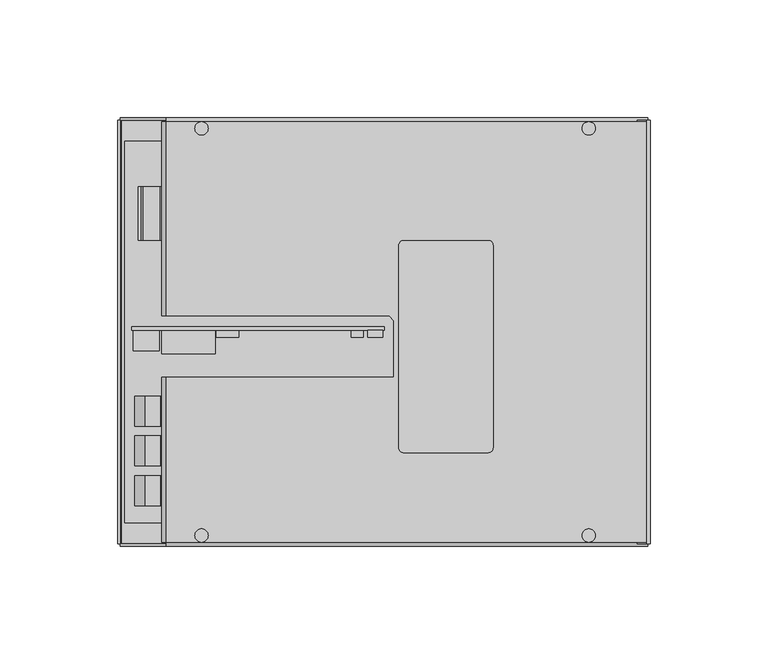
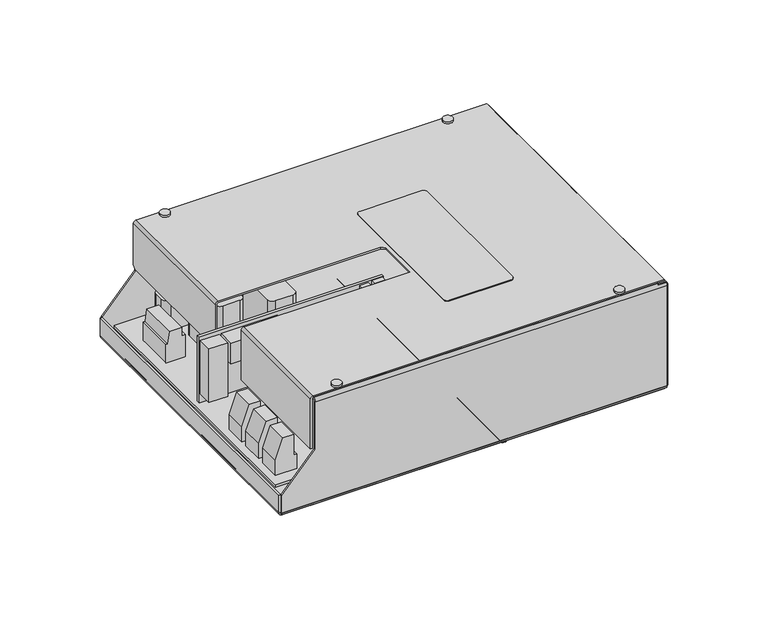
"""IFC4 building model written with IfcOpenShell, lengths in millimetres: proxy geometry, FITIN 12V 24A CG3 : FITIN 12V 24A CG3."""

from ifc_helpers import new_model, si_unit, point, frame, frame_2d, origin, place, context, project, spatial, polyline, circle_curve, trimmed, segment, composite_curve, outline, extrude, source, transform, mapped, element, save
from ifc_brep_helpers import plane_surface, cylinder_surface, revolved_surface, advanced_brep


def electrical_equipment_b5e7c551(model_context):
    return source(origin(), model_context, "Body", "SolidModel", [
        extrude(outline(composite_curve([segment(trimmed(circle_curve(frame_2d((-98.4543929, 76.9323952)), 3.2024027), [point((-101.6567956, 76.9323952))], [point((-95.2519902, 76.9323952))], False, "CARTESIAN"), True, "CONTINUOUS"), segment(trimmed(circle_curve(frame_2d((-98.4543929, 76.9323952)), 3.2024027), [point((-95.2519902, 76.9323952))], [point((-101.6567956, 76.9323952))], False, "CARTESIAN"), True, "CONTINUOUS")], self_intersect=False)), frame((0.0, 0.0, -2.9999999), z_axis=(0.0, 0.0, 1.0), x_axis=(1.0, 0.0, 0.0)), (0.0, 0.0, 1.0), 3.0),
        extrude(outline(composite_curve([segment(trimmed(circle_curve(frame_2d((-98.4543929, -76.9323952)), 3.2024027), [point((-101.6567956, -76.9323952))], [point((-95.2519902, -76.9323952))], False, "CARTESIAN"), True, "CONTINUOUS"), segment(trimmed(circle_curve(frame_2d((-98.4543929, -76.9323952)), 3.2024027), [point((-95.2519902, -76.9323952))], [point((-101.6567956, -76.9323952))], False, "CARTESIAN"), True, "CONTINUOUS")], self_intersect=False)), frame((0.0, 0.0, -2.9999999), z_axis=(0.0, 0.0, 1.0), x_axis=(1.0, 0.0, 0.0)), (0.0, 0.0, 1.0), 3.0),
        extrude(outline(composite_curve([segment(trimmed(circle_curve(frame_2d((98.6106429, 76.9323952)), 3.2024027), [point((101.8130456, 76.9323952))], [point((95.4082402, 76.9323952))], False, "CARTESIAN"), True, "CONTINUOUS"), segment(trimmed(circle_curve(frame_2d((98.6106429, 76.9323952)), 3.2024027), [point((95.4082402, 76.9323952))], [point((101.8130456, 76.9323952))], False, "CARTESIAN"), True, "CONTINUOUS")], self_intersect=False)), frame((0.0, 0.0, -2.9999999), z_axis=(0.0, 0.0, 1.0), x_axis=(1.0, 0.0, 0.0)), (0.0, 0.0, 1.0), 3.0),
        extrude(outline(composite_curve([segment(trimmed(circle_curve(frame_2d((98.6106429, -76.9323952)), 3.2024027), [point((101.8130456, -76.9323952))], [point((95.4082402, -76.9323952))], False, "CARTESIAN"), True, "CONTINUOUS"), segment(trimmed(circle_curve(frame_2d((98.6106429, -76.9323952)), 3.2024027), [point((95.4082402, -76.9323952))], [point((101.8130456, -76.9323952))], False, "CARTESIAN"), True, "CONTINUOUS")], self_intersect=False)), frame((0.0, 0.0, -2.9999999), z_axis=(0.0, 0.0, 1.0), x_axis=(1.0, 0.0, 0.0)), (0.0, 0.0, 1.0), 3.0),
        extrude(outline(composite_curve([segment(trimmed(circle_curve(frame_2d((0.0, 72.2401178)), 4.1224355), [point((-4.1224355, 72.2401178))], [point((4.1224355, 72.2401178))], False, "CARTESIAN"), True, "CONTINUOUS"), segment(trimmed(circle_curve(frame_2d((0.0, 72.2401178)), 4.1224355), [point((4.1224355, 72.2401178))], [point((-4.1224355, 72.2401178))], False, "CARTESIAN"), True, "CONTINUOUS")], self_intersect=False)), frame((0.0, 0.0, -5.3849342), z_axis=(0.0, 0.0, 1.0), x_axis=(1.0, 0.0, 0.0)), (0.0, 0.0, 1.0), 1.8849342),
        extrude(outline(composite_curve([segment(trimmed(circle_curve(frame_2d((0.0, -72.1219662)), 4.0439409), [point((-4.0439409, -72.1219662))], [point((4.0439409, -72.1219662))], False, "CARTESIAN"), True, "CONTINUOUS"), segment(trimmed(circle_curve(frame_2d((0.0, -72.1219662)), 4.0439409), [point((4.0439409, -72.1219662))], [point((-4.0439409, -72.1219662))], False, "CARTESIAN"), True, "CONTINUOUS")], self_intersect=False)), frame((0.0, 0.0, -5.3849342), z_axis=(0.0, 0.0, 1.0), x_axis=(1.0, 0.0, 0.0)), (0.0, 0.0, 1.0), 1.8849342),
        extrude(outline(composite_curve([segment(polyline([(-3.5, 18.9413185), (-8.5, 22.51), (-8.5, 24.3521216)]), True, "CONTINUOUS"), segment(trimmed(circle_curve(frame_2d((-7.8421216, 24.3521216)), 0.6578784), [point((-8.5, 24.3521216))], [point((-7.8421216, 25.01))], False, "CARTESIAN"), True, "CONTINUOUS"), segment(polyline([(-7.8421216, 25.01), (-0.6253343, 25.01)]), True, "CONTINUOUS"), segment(trimmed(circle_curve(frame_2d((-0.6253343, 24.3846657)), 0.6253343), [point((-0.6253343, 25.01))], [point((0.0, 24.3846657))], False, "CARTESIAN"), True, "CONTINUOUS"), segment(polyline([(0.0, 24.3846657), (0.0, -24.49)]), True, "CONTINUOUS"), segment(trimmed(circle_curve(frame_2d((-0.5, -24.49)), 0.5), [point((0.0, -24.49))], [point((-0.5, -24.99))], False, "CARTESIAN"), True, "CONTINUOUS"), segment(polyline([(-0.5, -24.99), (-5.6765266, -24.99), (-7.1537895, -22.3789285)]), True, "CONTINUOUS"), segment(trimmed(circle_curve(frame_2d((-6.0048715, -22.3435789)), 1.1494617), [point((-7.1537895, -22.3789285))], [point((-6.0792807, -21.1965281))], False, "CARTESIAN"), True, "CONTINUOUS"), segment(polyline([(-6.0792807, -21.1965281), (-7.9333399, -12.6353371)]), True, "CONTINUOUS"), segment(trimmed(circle_curve(frame_2d((-7.4927941, -13.0515209)), 0.6060441), [point((-7.9333399, -12.6353371))], [point((-6.9004808, -12.9232462))], False, "CARTESIAN"), True, "CONTINUOUS"), segment(polyline([(-6.9004808, -12.9232462), (-4.9144214, -22.0939531)]), True, "CONTINUOUS"), segment(trimmed(circle_curve(frame_2d((-4.2043722, -21.9401809)), 0.7265093), [point((-4.9144214, -22.0939531))], [point((-3.5, -22.1181573))], True, "CARTESIAN"), True, "CONTINUOUS"), segment(polyline([(-3.5, -22.1181573), (-3.5, 18.9413185)]), True, "CONTINUOUS")], self_intersect=False)), frame((0.0, -80.1229466, 0.0), z_axis=(0.0, 1.0, 0.0), x_axis=(0.0, 0.0, 1.0)), (0.0, 0.0, 1.0), 160.1595466),
        extrude(outline(composite_curve([segment(trimmed(circle_curve(frame_2d((-78.9637, 53.8129)), 3.0), [point((-81.9637, 53.8129))], [point((-78.9637, 56.8129))], False, "CARTESIAN"), True, "CONTINUOUS"), segment(polyline([(-78.9637, 56.8129), (-68.9637, 56.8129)]), True, "CONTINUOUS"), segment(trimmed(circle_curve(frame_2d((-68.9637, 53.8129)), 3.0), [point((-68.9637, 56.8129))], [point((-65.9637, 53.8129))], False, "CARTESIAN"), True, "CONTINUOUS"), segment(polyline([(-65.9637, 53.8129), (-65.9637, 28.8129)]), True, "CONTINUOUS"), segment(trimmed(circle_curve(frame_2d((-68.9637, 28.8129)), 3.0), [point((-65.9637, 28.8129))], [point((-68.9637, 25.8129))], False, "CARTESIAN"), True, "CONTINUOUS"), segment(polyline([(-68.9637, 25.8129), (-78.9637, 25.8129)]), True, "CONTINUOUS"), segment(trimmed(circle_curve(frame_2d((-78.9637, 28.8129)), 3.0), [point((-78.9637, 25.8129))], [point((-81.9637, 28.8129))], False, "CARTESIAN"), True, "CONTINUOUS"), segment(polyline([(-81.9637, 28.8129), (-81.9637, 53.8129)]), True, "CONTINUOUS")], self_intersect=False)), frame((0.0, 0.0, 12.6000001), z_axis=(0.0, 0.0, 1.0), x_axis=(1.0, 0.0, 0.0)), (0.0, 0.0, 1.0), 34.5),
        extrude(outline(composite_curve([segment(trimmed(circle_curve(frame_2d((-43.5990807, 19.4592307)), 3.0), [point((-40.5990807, 19.4592307))], [point((-43.5990807, 16.4592307))], False, "CARTESIAN"), True, "CONTINUOUS"), segment(polyline([(-43.5990807, 16.4592307), (-53.5990807, 16.4592307)]), True, "CONTINUOUS"), segment(trimmed(circle_curve(frame_2d((-53.5990807, 19.4592307)), 3.0), [point((-53.5990807, 16.4592307))], [point((-56.5990807, 19.4592307))], False, "CARTESIAN"), True, "CONTINUOUS"), segment(polyline([(-56.5990807, 19.4592307), (-56.5990807, 44.4592307)]), True, "CONTINUOUS"), segment(trimmed(circle_curve(frame_2d((-53.5990807, 44.4592307)), 3.0), [point((-56.5990807, 44.4592307))], [point((-53.5990807, 47.4592307))], False, "CARTESIAN"), True, "CONTINUOUS"), segment(polyline([(-53.5990807, 47.4592307), (-43.5990807, 47.4592307)]), True, "CONTINUOUS"), segment(trimmed(circle_curve(frame_2d((-43.5990807, 44.4592307)), 3.0), [point((-43.5990807, 47.4592307))], [point((-40.5990807, 44.4592307))], False, "CARTESIAN"), True, "CONTINUOUS"), segment(polyline([(-40.5990807, 44.4592307), (-40.5990807, 19.4592307)]), True, "CONTINUOUS")], self_intersect=False)), frame((0.0, 0.0, 12.6000001), z_axis=(0.0, 0.0, 1.0), x_axis=(1.0, 0.0, 0.0)), (0.0, 0.0, 1.0), 34.5),
        extrude(outline(polyline([(-61.6494, -2.29), (-71.1494, -2.29), (-71.1494, 0.71), (-61.6494, 0.71), (-61.6494, -2.29)])), frame((0.0, 0.0, 45.6860001), z_axis=(0.0, 0.0, 1.0), x_axis=(1.0, 0.0, 0.0)), (0.0, 0.0, 1.0), 5.0),
        extrude(outline(polyline([(-8.7244, -2.29), (-13.8044, -2.29), (-13.8044, 0.71), (-8.7244, 0.71), (-8.7244, -2.29)])), frame((0.0, 0.0, 45.6200001), z_axis=(0.0, 0.0, 1.0), x_axis=(1.0, 0.0, 0.0)), (0.0, 0.0, 1.0), 6.35),
        extrude(outline(polyline([(-0.4694, -2.29), (-6.8194, -2.29), (-6.8194, 0.71), (-0.4694, 0.71), (-0.4694, -2.29)])), frame((0.0, 0.0, 42.4450001), z_axis=(0.0, 0.0, 1.0), x_axis=(1.0, 0.0, 0.0)), (0.0, 0.0, 1.0), 10.16),
        extrude(outline(polyline([(-71.6148, -9.29), (-94.3478, -9.29), (-94.3478, 0.71), (-71.6148, 0.71), (-71.6148, -9.29)])), frame((0.0, 0.0, 38.1524001), z_axis=(0.0, 0.0, 1.0), x_axis=(1.0, 0.0, 0.0)), (0.0, 0.0, 1.0), 12.4968),
        extrude(outline(polyline([(-95.4908, -7.89), (-106.489, -7.89), (-106.489, 0.71), (-95.4908, 0.71), (-95.4908, -7.89)])), frame((0.0, 0.0, 17.6546001), z_axis=(0.0, 0.0, 1.0), x_axis=(1.0, 0.0, 0.0)), (0.0, 0.0, 1.0), 32.9946),
        extrude(outline(polyline([(-107.1494, 0.71), (-107.1494, 2.31), (0.0132, 2.31), (0.0132, 0.71), (-107.1494, 0.71)])), frame((0.0, 0.0, 12.6000001), z_axis=(0.0, 0.0, 1.0), x_axis=(1.0, 0.0, 0.0)), (0.0, 0.0, 1.0), 40.386),
        extrude(outline(polyline([(12.6000001, -105.7264), (12.6000001, -93.2296), (21.5126464, -93.2296), (21.5126464, -94.9381951), (34.1000001, -94.9381951), (34.1000001, -101.3394304), (21.8983651, -105.7264), (12.6000001, -105.7264)])), frame((0.0, -39.929, 0.0), z_axis=(0.0, 1.0, 0.0), x_axis=(0.0, 0.0, 1.0)), (0.0, 0.0, 1.0), 12.7),
        extrude(outline(polyline([(12.6000001, -105.7264), (12.6000001, -93.2296), (21.5126464, -93.2296), (21.5126464, -94.9381951), (34.1000001, -94.9381951), (34.1000001, -101.3394304), (21.8983651, -105.7264), (12.6000001, -105.7264)])), frame((0.0, -56.82, 0.0), z_axis=(0.0, 1.0, 0.0), x_axis=(0.0, 0.0, 1.0)), (0.0, 0.0, 1.0), 12.7),
        extrude(outline(polyline([(12.6000001, -105.7264), (12.6000001, -93.2296), (21.5126464, -93.2296), (21.5126464, -94.9381951), (34.1000001, -94.9381951), (34.1000001, -101.3394304), (21.8983651, -105.7264), (12.6000001, -105.7264)])), frame((0.0, -73.761395, 0.0), z_axis=(0.0, 1.0, 0.0), x_axis=(0.0, 0.0, 1.0)), (0.0, 0.0, 1.0), 12.7),
        extrude(outline(composite_curve([segment(trimmed(circle_curve(frame_2d((-87.8194, 71.196)), 3.5052), [point((-91.3246, 71.196))], [point((-87.8194, 74.7012))], False, "CARTESIAN"), True, "CONTINUOUS"), segment(polyline([(-87.8194, 74.7012), (-58.4824, 74.7012), (-58.4824, 62.8902), (-87.6669336, 62.9663336)]), True, "CONTINUOUS"), segment(trimmed(circle_curve(frame_2d((-87.6669336, 66.624)), 3.6576664), [point((-87.6669336, 62.9663336))], [point((-91.3246, 66.624))], False, "CARTESIAN"), True, "CONTINUOUS"), segment(polyline([(-91.3246, 66.624), (-91.3246, 71.196)]), True, "CONTINUOUS")], self_intersect=False)), frame((0.0, 0.0, 12.6000001), z_axis=(0.0, 0.0, 1.0), x_axis=(1.0, 0.0, 0.0)), (0.0, 0.0, 1.0), 18.5),
        extrude(outline(polyline([(-110.0444, 80.9496), (110.0466, 80.9496), (110.0466, -80.95), (-110.0444, -80.95), (-110.0444, 80.9496)])), frame((0.0, 0.0, 11.0000001), z_axis=(0.0, 0.0, 1.0), x_axis=(1.0, 0.0, 0.0)), (0.0, 0.0, 1.0), 1.6),
        extrude(outline(polyline([(12.6000001, -104.3294), (12.6000001, -93.2296), (26.4690736, -93.2296), (26.4690736, -95.2615965), (31.6000001, -95.2615965), (31.6000001, -102.20839), (24.2346609, -103.1751412), (24.2346609, -104.3294), (12.6000001, -104.3294)])), frame((0.0, 38.8618, 0.0), z_axis=(0.0, 1.0, 0.0), x_axis=(0.0, 0.0, 1.0)), (0.0, 0.0, 1.0), 22.86),
        extrude(outline(polyline([(95.1066, 80.9496), (95.1066, -79.0504), (30.1066, -79.0504), (30.1066, 25.9496), (-55.8934, 25.9496), (-55.8934, 80.9496), (95.1066, 80.9496)])), frame((0.0, 0.0, 57.6000001), z_axis=(0.0, 0.0, 1.0), x_axis=(1.0, 0.0, 0.0)), (0.0, 0.0, 1.0), 1.0),
        extrude(outline(composite_curve([segment(polyline([(65.3366001, 107.5465999), (64.3366002, 107.5465999), (64.3366002, 111.3099999)]), True, "CONTINUOUS"), segment(trimmed(circle_curve(frame_2d((63.6000002, 111.3099999)), 0.7366), [point((64.3366002, 111.3099999))], [point((63.6000002, 112.0465999))], True, "CARTESIAN"), True, "CONTINUOUS"), segment(polyline([(63.6000002, 112.0465999), (1.7366001, 112.0465999)]), True, "CONTINUOUS"), segment(trimmed(circle_curve(frame_2d((1.7366001, 111.3099998)), 0.7366001), [point((1.7366001, 112.0465999))], [point((1.0, 111.3099998))], True, "CARTESIAN"), True, "CONTINUOUS"), segment(polyline([(1.0, 111.3099998), (1.0, -111.31)]), True, "CONTINUOUS"), segment(trimmed(circle_curve(frame_2d((1.7366001, -111.31)), 0.7366001), [point((1.0, -111.31))], [point((1.7366001, -112.0466001))], True, "CARTESIAN"), True, "CONTINUOUS"), segment(polyline([(1.7366001, -112.0466001), (12.5999999, -112.0466001), (12.5999999, -113.0466), (1.7366001, -113.0466)]), True, "CONTINUOUS"), segment(trimmed(circle_curve(frame_2d((1.7366001, -111.31)), 1.7366), [point((1.7366001, -113.0466))], [point((1e-07, -111.31))], False, "CARTESIAN"), True, "CONTINUOUS"), segment(polyline([(1e-07, -111.31), (1e-07, 111.3099998)]), True, "CONTINUOUS"), segment(trimmed(circle_curve(frame_2d((1.7366001, 111.3099998)), 1.7366), [point((1e-07, 111.3099998))], [point((1.7366001, 113.0465997))], False, "CARTESIAN"), True, "CONTINUOUS"), segment(polyline([(1.7366001, 113.0465997), (63.6000002, 113.0465997)]), True, "CONTINUOUS"), segment(trimmed(circle_curve(frame_2d((63.6000002, 111.3099999)), 1.7365999), [point((63.6000002, 113.0465997))], [point((65.3366001, 111.3099999))], False, "CARTESIAN"), True, "CONTINUOUS"), segment(polyline([(65.3366001, 111.3099999), (65.3366001, 107.5465999)]), True, "CONTINUOUS")], self_intersect=False)), frame((0.0, -89.8792893, 0.0), z_axis=(0.0, 1.0, 0.0), x_axis=(0.0, 0.0, 1.0)), (0.0, 0.0, 1.0), 179.7585786),
        extrude(outline(composite_curve([segment(polyline([(8.3072684, 38.7834), (44.3712674, 38.7834)]), True, "CONTINUOUS"), segment(trimmed(circle_curve(frame_2d((44.3712674, 36.8446675)), 1.9387325), [point((44.3712674, 38.7834))], [point((46.3099999, 36.8446675))], False, "CARTESIAN"), True, "CONTINUOUS"), segment(polyline([(46.3099999, 36.8446675), (46.3099999, -49.2387016)]), True, "CONTINUOUS"), segment(trimmed(circle_curve(frame_2d((44.3321015, -49.2387016)), 1.9778984), [point((46.3099999, -49.2387016))], [point((44.3321015, -51.2166))], False, "CARTESIAN"), True, "CONTINUOUS"), segment(polyline([(44.3321015, -51.2166), (8.2379927, -51.2166)]), True, "CONTINUOUS"), segment(trimmed(circle_curve(frame_2d((8.2379927, -49.2886071)), 1.9279929), [point((8.2379927, -51.2166))], [point((6.3099999, -49.2886071))], False, "CARTESIAN"), True, "CONTINUOUS"), segment(polyline([(6.3099999, -49.2886071), (6.3099999, 36.7861315)]), True, "CONTINUOUS"), segment(trimmed(circle_curve(frame_2d((8.3072684, 36.7861315)), 1.9972685), [point((6.3099999, 36.7861315))], [point((8.3072684, 38.7834))], False, "CARTESIAN"), True, "CONTINUOUS")], self_intersect=False)), frame((0.0, 0.0, 66.3366001), z_axis=(0.0, 0.0, 1.0), x_axis=(1.0, 0.0, 0.0)), (0.0, 0.0, 1.0), 0.5),
        extrude(outline(composite_curve([segment(trimmed(circle_curve(frame_2d((-77.4918605, 86.4355941)), 2.810918), [point((-80.3027784, 86.4355941))], [point((-74.6809425, 86.4355941))], False, "CARTESIAN"), True, "CONTINUOUS"), segment(trimmed(circle_curve(frame_2d((-77.4918605, 86.4355941)), 2.810918), [point((-74.6809425, 86.4355941))], [point((-80.3027784, 86.4355941))], False, "CARTESIAN"), True, "CONTINUOUS")], self_intersect=False)), frame((0.0, 0.0, 66.3366001), z_axis=(0.0, 0.0, 1.0), x_axis=(1.0, 0.0, 0.0)), (0.0, 0.0, 1.0), 1.2),
        extrude(outline(composite_curve([segment(trimmed(circle_curve(frame_2d((-77.4918605, -86.4355941)), 2.810918), [point((-80.3027784, -86.4355941))], [point((-74.6809425, -86.4355941))], False, "CARTESIAN"), True, "CONTINUOUS"), segment(trimmed(circle_curve(frame_2d((-77.4918605, -86.4355941)), 2.810918), [point((-74.6809425, -86.4355941))], [point((-80.3027784, -86.4355941))], False, "CARTESIAN"), True, "CONTINUOUS")], self_intersect=False)), frame((0.0, 0.0, 66.3366001), z_axis=(0.0, 0.0, 1.0), x_axis=(1.0, 0.0, 0.0)), (0.0, 0.0, 1.0), 1.2),
        extrude(outline(composite_curve([segment(trimmed(circle_curve(frame_2d((86.9449855, 86.4355941)), 2.810918), [point((89.7559034, 86.4355941))], [point((84.1340675, 86.4355941))], False, "CARTESIAN"), True, "CONTINUOUS"), segment(trimmed(circle_curve(frame_2d((86.9449855, 86.4355941)), 2.810918), [point((84.1340675, 86.4355941))], [point((89.7559034, 86.4355941))], False, "CARTESIAN"), True, "CONTINUOUS")], self_intersect=False)), frame((0.0, 0.0, 66.3366001), z_axis=(0.0, 0.0, 1.0), x_axis=(1.0, 0.0, 0.0)), (0.0, 0.0, 1.0), 1.2),
        extrude(outline(composite_curve([segment(trimmed(circle_curve(frame_2d((86.9449855, -86.4355941)), 2.810918), [point((89.7559034, -86.4355941))], [point((84.1340675, -86.4355941))], False, "CARTESIAN"), True, "CONTINUOUS"), segment(trimmed(circle_curve(frame_2d((86.9449855, -86.4355941)), 2.810918), [point((84.1340675, -86.4355941))], [point((89.7559034, -86.4355941))], False, "CARTESIAN"), True, "CONTINUOUS")], self_intersect=False)), frame((0.0, 0.0, 66.3366001), z_axis=(0.0, 0.0, 1.0), x_axis=(1.0, 0.0, 0.0)), (0.0, 0.0, 1.0), 1.2),
        extrude(outline(composite_curve([segment(polyline([(-90.95, 1.7366001), (-89.95, 1.7366001)]), True, "CONTINUOUS"), segment(trimmed(circle_curve(frame_2d((-89.2134001, 1.7366001)), 0.7365999), [point((-89.95, 1.7366001))], [point((-89.2134001, 1.0000002))], True, "CARTESIAN"), True, "CONTINUOUS"), segment(polyline([(-89.2134001, 1.0000002), (-89.2134, 1e-07)]), True, "CONTINUOUS"), segment(trimmed(circle_curve(frame_2d((-89.2134, 1.7366001)), 1.7365999), [point((-89.2134, 1e-07))], [point((-90.95, 1.7366001))], False, "CARTESIAN"), True, "CONTINUOUS")], self_intersect=False)), frame((-111.9758893, 0.0, 0.0), z_axis=(1.0, 0.0, 0.0), x_axis=(0.0, 1.0, 0.0)), (0.0, 0.0, 1.0), 223.9517786),
        extrude(outline(composite_curve([segment(polyline([(-89.2134, 65.3366001), (-82.95, 65.3366001), (-82.95, 64.3366001), (-89.2134, 64.3366001)]), True, "CONTINUOUS"), segment(trimmed(circle_curve(frame_2d((-89.2134, 63.6000001)), 0.7366), [point((-89.2134, 64.3366001))], [point((-89.95, 63.6000001))], True, "CARTESIAN"), True, "CONTINUOUS"), segment(polyline([(-89.95, 63.6000001), (-90.95, 63.6000001)]), True, "CONTINUOUS"), segment(trimmed(circle_curve(frame_2d((-89.2134, 63.6000001)), 1.7366), [point((-90.95, 63.6000001))], [point((-89.2134, 65.3366001))], False, "CARTESIAN"), True, "CONTINUOUS")], self_intersect=False)), frame((-92.4758893, 0.0, 0.0), z_axis=(1.0, 0.0, 0.0), x_axis=(0.0, 1.0, 0.0)), (0.0, 0.0, 1.0), 204.4517786),
        extrude(outline(polyline([(34.3000001, -92.4758893), (12.5999999, -111.9758893), (1.7366001, -111.9758893), (1.7366001, 111.9758893), (63.6000001, 111.9758893), (63.6000001, -92.4758893), (34.3000001, -92.4758893)])), frame((0.0, -90.95, 0.0), z_axis=(0.0, 1.0, 0.0), x_axis=(0.0, 0.0, 1.0)), (0.0, 0.0, 1.0), 1.0707107),
        extrude(outline(composite_curve([segment(trimmed(circle_curve(frame_2d((89.2134, 1.7366001)), 1.7365999), [point((90.95, 1.7366001))], [point((89.2134, 1e-07))], False, "CARTESIAN"), True, "CONTINUOUS"), segment(polyline([(89.2134, 1e-07), (89.2134001, 1.0000002)]), True, "CONTINUOUS"), segment(trimmed(circle_curve(frame_2d((89.2134001, 1.7366001)), 0.7365999), [point((89.2134001, 1.0000002))], [point((89.95, 1.7366001))], True, "CARTESIAN"), True, "CONTINUOUS"), segment(polyline([(89.95, 1.7366001), (90.95, 1.7366001)]), True, "CONTINUOUS")], self_intersect=False)), frame((-111.9758893, 0.0, 0.0), z_axis=(1.0, 0.0, 0.0), x_axis=(0.0, 1.0, 0.0)), (0.0, 0.0, 1.0), 223.9517786),
        extrude(outline(composite_curve([segment(trimmed(circle_curve(frame_2d((89.2134, 63.6000001)), 1.7366), [point((89.2134, 65.3366001))], [point((90.95, 63.6000001))], False, "CARTESIAN"), True, "CONTINUOUS"), segment(polyline([(90.95, 63.6000001), (89.95, 63.6000001)]), True, "CONTINUOUS"), segment(trimmed(circle_curve(frame_2d((89.2134, 63.6000001)), 0.7366), [point((89.95, 63.6000001))], [point((89.2134, 64.3366001))], True, "CARTESIAN"), True, "CONTINUOUS"), segment(polyline([(89.2134, 64.3366001), (82.95, 64.3366001), (82.95, 65.3366001), (89.2134, 65.3366001)]), True, "CONTINUOUS")], self_intersect=False)), frame((-92.4758893, 0.0, 0.0), z_axis=(1.0, 0.0, 0.0), x_axis=(0.0, 1.0, 0.0)), (0.0, 0.0, 1.0), 204.4517786),
        extrude(outline(polyline([(34.3000001, -92.4758893), (12.5999999, -111.9758893), (1.7366001, -111.9758893), (1.7366001, 111.9758893), (63.6000001, 111.9758893), (63.6000001, -92.4758893), (34.3000001, -92.4758893)])), frame((0.0, 89.8792893, 0.0), z_axis=(0.0, 1.0, 0.0), x_axis=(0.0, 0.0, 1.0)), (0.0, 0.0, 1.0), 1.0707107),
        advanced_brep(
        [(-92.5261339, -89.2166, 66.3366001), (-94.2800001, -89.2166, 64.5827338), (-94.2800001, -89.2166, 34.3366001), (-93.2800001, -89.2166, 34.3366001), (-93.2800001, -89.2166, 64.5552056), (-92.4986056, -89.2166, 65.3366001), (111.3099999, -89.2166, 65.3366001), (111.3099999, -89.2166, 66.3366001), (-92.5261339, 89.2134, 66.3366001), (111.3099999, 89.2134, 66.3366001), (111.3099999, 89.2134, 65.3366001), (-92.4986056, 89.2134, 65.3366001), (-93.2800001, 89.2134, 64.5552056), (-93.2800001, 89.2134, 39.5966001), (-94.2800001, 89.2134, 39.5966001), (-94.2800001, 89.2134, 64.5827338), (-92.5261339, 6.8134, 66.3366001), (2.1299999, 6.8134, 66.3366001), (4.1299999, 4.8134, 66.3366001), (4.1299999, -19.2866, 66.3366001), (-92.5261339, -19.2866, 66.3366001), (-92.4986056, -19.2866, 65.3366001), (4.1299999, -19.2866, 65.3366001), (4.1299999, 4.8134, 65.3366001), (2.1299999, 6.8134, 65.3366001), (-92.4986056, 6.8134, 65.3366001), (-93.2800001, -19.2866, 64.5552056), (-93.2800001, 6.8134, 64.5552056), (-93.2800001, -19.2866, 34.3366001), (-93.2800001, 6.8134, 39.5966001), (-93.2800001, 8.8134, 37.5966001), (-93.2800001, 87.2134, 37.5966001), (-94.2800001, -19.2866, 34.3366001), (-94.2800001, -19.2866, 64.5827338), (-94.2800001, 6.8134, 64.5827338), (-94.2800001, 87.2134, 37.5966001), (-94.2800001, 8.8134, 37.5966001), (-94.2800001, 6.8134, 39.5966001)],
        [
            (0, 1, circle_curve(frame((-92.5261339, -89.2166, 64.5827338), z_axis=(0.0, -1.0, 0.0), x_axis=(1.0, 0.0, 0.0)), 1.7538662)),
            (1, 2),
            (2, 3),
            (3, 4),
            (4, 5, circle_curve(frame((-92.4986056, -89.2166, 64.5552056), z_axis=(0.0, 1.0, 0.0), x_axis=(1.0, 0.0, 0.0)), 0.7813945)),
            (5, 6),
            (6, 7),
            (7, 0),
            (8, 9),
            (9, 10),
            (10, 11),
            (11, 12, circle_curve(frame((-92.4986056, 89.2134, 64.5552056), z_axis=(0.0, -1.0, 0.0), x_axis=(1.0, 0.0, 0.0)), 0.7813945)),
            (12, 13),
            (13, 14),
            (14, 15),
            (15, 8, circle_curve(frame((-92.5261339, 89.2134, 64.5827338), z_axis=(0.0, 1.0, 0.0), x_axis=(1.0, 0.0, 0.0)), 1.7538662)),
            (7, 9),
            (8, 16),
            (16, 17),
            (17, 18),
            (18, 19),
            (19, 20),
            (20, 0),
            (6, 10),
            (5, 21),
            (21, 22),
            (22, 23),
            (23, 24),
            (24, 25),
            (25, 11),
            (4, 26),
            (26, 21, circle_curve(frame((-92.4986056, -19.2866, 64.5552056), z_axis=(0.0, 1.0, 0.0), x_axis=(1.0, 0.0, 0.0)), 0.7813945)),
            (25, 27, circle_curve(frame((-92.4986056, 6.8134, 64.5552056), z_axis=(0.0, -1.0, 0.0), x_axis=(1.0, 0.0, 0.0)), 0.7813945)),
            (27, 12),
            (3, 28),
            (28, 26),
            (27, 29),
            (29, 30),
            (30, 31),
            (31, 13),
            (2, 32),
            (32, 28),
            (1, 33),
            (33, 32),
            (34, 15),
            (14, 35),
            (35, 36),
            (36, 37),
            (37, 34),
            (20, 33, circle_curve(frame((-92.5261339, -19.2866, 64.5827338), z_axis=(0.0, -1.0, 0.0), x_axis=(1.0, 0.0, 0.0)), 1.7538662)),
            (34, 16, circle_curve(frame((-92.5261339, 6.8134, 64.5827338), z_axis=(0.0, 1.0, 0.0), x_axis=(1.0, 0.0, 0.0)), 1.7538662)),
            (19, 22),
            (18, 23),
            (17, 24),
            (37, 29),
            (35, 31),
            (30, 36),
        ],
        [
            plane_surface(frame((111.3099999, -89.2166, 66.3366001), z_axis=(0.0, -1.0, 0.0), x_axis=(-1.0, 0.0, 0.0))),
            plane_surface(frame((111.3099999, 89.2134, 66.3366001), z_axis=(0.0, 1.0, 0.0), x_axis=(1.0, 0.0, 0.0))),
            plane_surface(frame((-92.5261339, 89.2134, 66.3366001), z_axis=(0.0, 0.0, 1.0), x_axis=(0.0, -1.0, 0.0))),
            plane_surface(frame((111.3099999, 89.2134, 66.3366001), z_axis=(1.0, 0.0, 0.0), x_axis=(0.0, -1.0, 0.0))),
            plane_surface(frame((111.3099999, 89.2134, 65.3366001), z_axis=(0.0, 0.0, -1.0), x_axis=(0.0, -1.0, 0.0))),
            revolved_surface(polyline([(-91.7172111, -89.2166, 64.5552056), (-91.7172111, -19.286599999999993, 64.5552056)]), (-92.4986056, -89.2166, 64.5552056), (0.0, -1.0, 0.0)),
            revolved_surface(polyline([(-91.7172111, 6.8134000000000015, 64.5552056), (-91.7172111, 89.21340000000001, 64.5552056)]), (-92.4986056, -89.2166, 64.5552056), (0.0, -1.0, 0.0)),
            plane_surface(frame((-93.2800001, 89.2134, 64.5552056), z_axis=(1.0, 0.0, 0.0), x_axis=(0.0, -1.0, 0.0))),
            plane_surface(frame((-93.2800001, 89.2134, 34.3366001), z_axis=(0.0, 0.0, -1.0), x_axis=(0.0, -1.0, 0.0))),
            plane_surface(frame((-94.2800001, 89.2134, 34.3366001), z_axis=(-1.0, 0.0, 0.0), x_axis=(0.0, -1.0, 0.0))),
            cylinder_surface(frame((-92.5261339, -89.2166, 64.5827338), z_axis=(0.0, 1.0, 0.0), x_axis=(1.0, 0.0, 0.0)), 1.7538662),
            plane_surface(frame((-144.2800001, -19.2866, 69.7813373), z_axis=(0.0, 1.0, 0.0), x_axis=(0.0, 0.0, -1.0))),
            plane_surface(frame((4.1299999, -19.2866, 69.7813373), z_axis=(-1.0, 0.0, 0.0), x_axis=(0.0, 0.0, -1.0))),
            plane_surface(frame((4.1299999, 4.8134, 69.7813373), z_axis=(-0.7071067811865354, -0.7071067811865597, 0.0), x_axis=(0.0, 0.0, -1.0))),
            plane_surface(frame((2.1299999, 6.8134, 69.7813373), z_axis=(0.0, -1.0, 0.0), x_axis=(0.0, 0.0, -1.0))),
            plane_surface(frame((-92.2800001, 87.2134, 37.5966001), z_axis=(0.0, 0.0, -1.0), x_axis=(-1.0, 0.0, 0.0))),
            plane_surface(frame((-92.2800001, 8.8134, 37.5966001), z_axis=(0.0, -0.7071067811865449, -0.7071067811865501), x_axis=(-1.0, 0.0, 0.0))),
            plane_surface(frame((-92.2800001, 89.2134, 39.5966001), z_axis=(0.0, 0.707106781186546, -0.707106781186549), x_axis=(-1.0, 0.0, 0.0))),
        ],
        [
            (0, [[1, 2, 3, 4, 5, 6, 7, 8]]),
            (1, [[9, 10, 11, 12, 13, 14, 15, 16]]),
            (2, [[-8, 17, -9, 18, 19, 20, 21, 22, 23]]),
            (3, [[-7, 24, -10, -17]]),
            (4, [[-6, 25, 26, 27, 28, 29, 30, -11, -24]]),
            (5, [[-5, 31, 32, -25]]),
            (6, [[-12, -30, 33, 34]]),
            (7, [[-4, 35, 36, -31]]),
            (7, [[-34, 37, 38, 39, 40, -13]]),
            (8, [[-3, 41, 42, -35]]),
            (9, [[-2, 43, 44, -41]]),
            (9, [[45, -15, 46, 47, 48, 49]]),
            (10, [[-1, -23, 50, -43]]),
            (10, [[-16, -45, 51, -18]]),
            (11, [[52, -26, -32, -36, -42, -44, -50, -22]]),
            (12, [[-52, -21, 53, -27]]),
            (13, [[-53, -20, 54, -28]]),
            (14, [[-54, -19, -51, -49, 55, -37, -33, -29]]),
            (15, [[56, -39, 57, -47]]),
            (16, [[-57, -38, -55, -48]]),
            (17, [[-56, -46, -14, -40]]),
        ],
    ),
    ])


if __name__ == "__main__":
    model = new_model("IFC4")
    model_context = context("Model", 3, world=origin())
    ifc_project = project(units=[si_unit("LENGTHUNIT", "METRE", prefix="MILLI")], contexts=[model_context])
    site = spatial("IfcSite", under=ifc_project)
    building = spatial("IfcBuilding", under=site)
    placement = place(None, origin())
    electrical_equipment_shape = electrical_equipment_b5e7c551(model_context)
    element("IfcBuildingElementProxy", 1, Name="FITIN 12V 24A CG3 : FITIN 12V 24A CG3", ObjectType="FITIN 12V 24A CG3 : FITIN 12V 24A CG3", at=placement, inside=building, context=model_context, shape_type="MappedRepresentation", body=[
        mapped(electrical_equipment_shape, transform((0.0, 0.0, 0.0), x_axis=(1.0, 0.0, 0.0), y_axis=(0.0, 1.0, 0.0), z_axis=(0.0, 0.0, 1.0))),
    ])
    save(model, "model.ifc")
